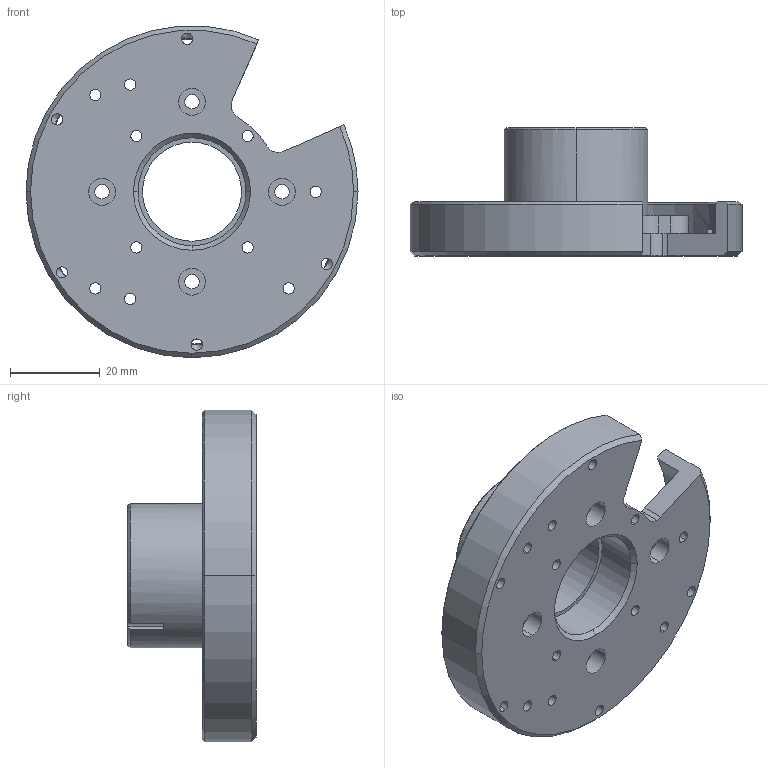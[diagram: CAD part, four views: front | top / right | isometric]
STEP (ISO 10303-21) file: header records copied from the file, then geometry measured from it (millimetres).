
FILE_DESCRIPTION (( 'STEP AP214' ), '1' );
FILE_NAME ('-RO60-聆彸綴裔馱蚾-A.stp.STEP', '2024-03-30T11:00:34', ( '' ), ( '' ), 'SwSTEP 2.0', 'SolidWorks 2022', '' );
FILE_SCHEMA (( 'AUTOMOTIVE_DESIGN' ));
Length unit declared in the file: millimetre
Products named in the file (1): -RO60-测试后盖工装-A.stp
Bounding box: 73.8 x 28.5 x 73.68 mm (x, y, z)
Volume: 30315.2 mm3; surface area: 16378.7 mm2
Topology: 1 solids, 1 shells, 139 faces, 395 edges, 251 vertices
Faces by surface type: cylinder 86, cone 31, plane 22
Entity records: 4925 total; most frequent: CARTESIAN_POINT 1063, DIRECTION 873, ORIENTED_EDGE 770, EDGE_CURVE 385, AXIS2_PLACEMENT_3D 355, VERTEX_POINT 251, CIRCLE 215, EDGE_LOOP 182
